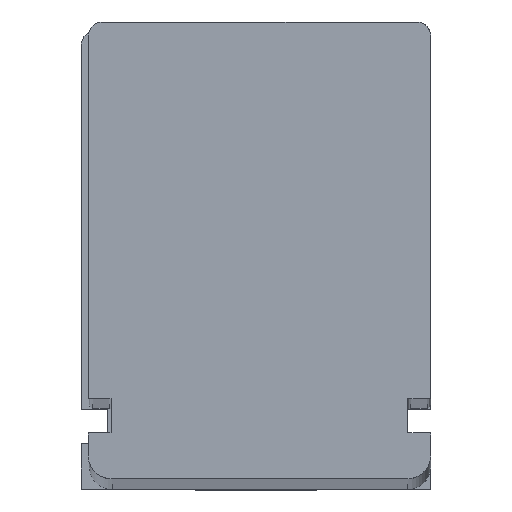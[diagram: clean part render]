
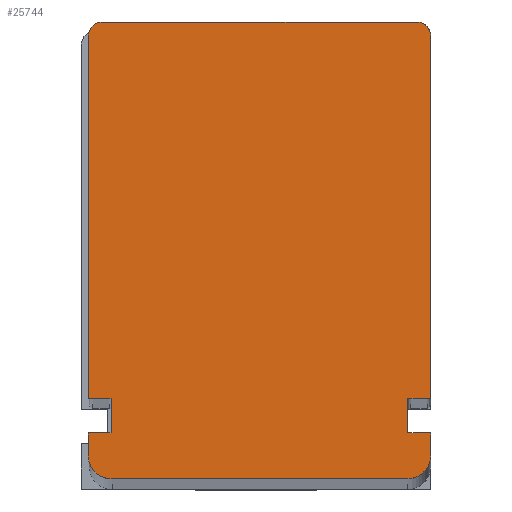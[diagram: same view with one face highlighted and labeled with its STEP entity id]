
A CAD part, top view. The second image highlights one B-rep face of the part: STEP entity #25744.
In plain terms, the highlighted planar face has unit normal (0, 0, 1).
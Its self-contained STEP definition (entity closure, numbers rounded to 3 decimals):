
#356 = CARTESIAN_POINT ( 'NONE',  ( 15., 7., 5.5 ) ) ;
#615 = VECTOR ( 'NONE', #17780, 1000. ) ;
#714 = CARTESIAN_POINT ( 'NONE',  ( -15., 4., 5.5 ) ) ;
#796 = CARTESIAN_POINT ( 'NONE',  ( -13., 4., 5.5 ) ) ;
#1031 = VERTEX_POINT ( 'NONE', #13647 ) ;
#1133 = VERTEX_POINT ( 'NONE', #22877 ) ;
#1313 = VERTEX_POINT ( 'NONE', #10103 ) ;
#1315 = CARTESIAN_POINT ( 'NONE',  ( -13., 4., 5.5 ) ) ;
#1497 = CARTESIAN_POINT ( 'NONE',  ( 13.75, 40., 5.5 ) ) ;
#1526 = VERTEX_POINT ( 'NONE', #27954 ) ;
#1612 = ORIENTED_EDGE ( 'NONE', *, *, #13354, .T. ) ;
#1744 = EDGE_CURVE ( 'NONE', #1133, #5813, #21401, .T. ) ;
#1798 = AXIS2_PLACEMENT_3D ( 'NONE', #4833, #22649, #9315 ) ;
#2169 = AXIS2_PLACEMENT_3D ( 'NONE', #19382, #6010, #21596 ) ;
#2738 = ORIENTED_EDGE ( 'NONE', *, *, #12800, .T. ) ;
#2820 = VECTOR ( 'NONE', #15998, 1000. ) ;
#2916 = LINE ( 'NONE', #24525, #25962 ) ;
#3417 = EDGE_CURVE ( 'NONE', #13939, #21290, #2916, .T. ) ;
#3596 = DIRECTION ( 'NONE',  ( 0., 1., 0. ) ) ;
#3919 = VERTEX_POINT ( 'NONE', #17221 ) ;
#4387 = CARTESIAN_POINT ( 'NONE',  ( -15., 7., 5.5 ) ) ;
#4688 = DIRECTION ( 'NONE',  ( 0., 0., 1. ) ) ;
#4833 = CARTESIAN_POINT ( 'NONE',  ( 13., 2., 5.5 ) ) ;
#5099 = EDGE_CURVE ( 'NONE', #28687, #1031, #14023, .T. ) ;
#5735 = CARTESIAN_POINT ( 'NONE',  ( 15., 2., 5.5 ) ) ;
#5813 = VERTEX_POINT ( 'NONE', #9103 ) ;
#5990 = DIRECTION ( 'NONE',  ( -1., 0., 0. ) ) ;
#6010 = DIRECTION ( 'NONE',  ( 0., 0., 1. ) ) ;
#6316 = VERTEX_POINT ( 'NONE', #8610 ) ;
#6554 = LINE ( 'NONE', #15550, #615 ) ;
#6753 = EDGE_CURVE ( 'NONE', #5813, #6316, #13291, .T. ) ;
#6832 = EDGE_CURVE ( 'NONE', #3919, #9789, #16429, .T. ) ;
#6842 = VERTEX_POINT ( 'NONE', #28967 ) ;
#7174 = EDGE_CURVE ( 'NONE', #21290, #23878, #10821, .T. ) ;
#7319 = LINE ( 'NONE', #25944, #8021 ) ;
#7360 = ORIENTED_EDGE ( 'NONE', *, *, #26855, .T. ) ;
#7431 = EDGE_CURVE ( 'NONE', #10658, #3919, #12537, .T. ) ;
#7521 = CARTESIAN_POINT ( 'NONE',  ( 13., 7., 5.5 ) ) ;
#7630 = CARTESIAN_POINT ( 'NONE',  ( -15., 7., 5.5 ) ) ;
#7697 = ORIENTED_EDGE ( 'NONE', *, *, #7431, .T. ) ;
#8021 = VECTOR ( 'NONE', #19200, 1000. ) ;
#8210 = DIRECTION ( 'NONE',  ( 0., 0., 1. ) ) ;
#8610 = CARTESIAN_POINT ( 'NONE',  ( 13., 7., 5.5 ) ) ;
#9103 = CARTESIAN_POINT ( 'NONE',  ( 13., 4., 5.5 ) ) ;
#9315 = DIRECTION ( 'NONE',  ( 1., 0., 0. ) ) ;
#9384 = CARTESIAN_POINT ( 'NONE',  ( -13., 0., 5.5 ) ) ;
#9457 = ORIENTED_EDGE ( 'NONE', *, *, #12608, .T. ) ;
#9589 = VECTOR ( 'NONE', #13574, 1000. ) ;
#9639 = VECTOR ( 'NONE', #17845, 1000. ) ;
#9722 = CARTESIAN_POINT ( 'NONE',  ( -13.75, 38.75, 5.5 ) ) ;
#9789 = VERTEX_POINT ( 'NONE', #7630 ) ;
#10103 = CARTESIAN_POINT ( 'NONE',  ( -15., 2., 5.5 ) ) ;
#10180 = ORIENTED_EDGE ( 'NONE', *, *, #7174, .T. ) ;
#10303 = EDGE_CURVE ( 'NONE', #23878, #1133, #7319, .T. ) ;
#10365 = CIRCLE ( 'NONE', #19655, 1.25 ) ;
#10658 = VERTEX_POINT ( 'NONE', #14239 ) ;
#10821 = CIRCLE ( 'NONE', #27554, 2. ) ;
#10916 = VERTEX_POINT ( 'NONE', #714 ) ;
#11330 = CARTESIAN_POINT ( 'NONE',  ( -15., 2., 5.5 ) ) ;
#11977 = DIRECTION ( 'NONE',  ( -1., 0., 0. ) ) ;
#12336 = ORIENTED_EDGE ( 'NONE', *, *, #28587, .T. ) ;
#12537 = CIRCLE ( 'NONE', #13533, 1.25 ) ;
#12569 = VECTOR ( 'NONE', #3596, 1000. ) ;
#12608 = EDGE_CURVE ( 'NONE', #6316, #28687, #19809, .T. ) ;
#12800 = EDGE_CURVE ( 'NONE', #1031, #6842, #10365, .T. ) ;
#13216 = DIRECTION ( 'NONE',  ( 1., 0., 0. ) ) ;
#13291 = LINE ( 'NONE', #25827, #12569 ) ;
#13354 = EDGE_CURVE ( 'NONE', #9789, #1526, #27464, .T. ) ;
#13389 = ORIENTED_EDGE ( 'NONE', *, *, #13659, .T. ) ;
#13533 = AXIS2_PLACEMENT_3D ( 'NONE', #9722, #25341, #11977 ) ;
#13574 = DIRECTION ( 'NONE',  ( 0., -1., 0. ) ) ;
#13647 = CARTESIAN_POINT ( 'NONE',  ( 15., 38.75, 5.5 ) ) ;
#13659 = EDGE_CURVE ( 'NONE', #6842, #10658, #16621, .T. ) ;
#13888 = VECTOR ( 'NONE', #23142, 1000. ) ;
#13939 = VERTEX_POINT ( 'NONE', #9384 ) ;
#14023 = LINE ( 'NONE', #356, #2820 ) ;
#14095 = VERTEX_POINT ( 'NONE', #796 ) ;
#14239 = CARTESIAN_POINT ( 'NONE',  ( -13.75, 40., 5.5 ) ) ;
#15550 = CARTESIAN_POINT ( 'NONE',  ( -15., 4., 5.5 ) ) ;
#15613 = CARTESIAN_POINT ( 'NONE',  ( -13., 7., 5.5 ) ) ;
#15837 = LINE ( 'NONE', #1315, #22431 ) ;
#15998 = DIRECTION ( 'NONE',  ( 0., 1., 0. ) ) ;
#16429 = LINE ( 'NONE', #4387, #27602 ) ;
#16621 = LINE ( 'NONE', #1497, #28513 ) ;
#16657 = ORIENTED_EDGE ( 'NONE', *, *, #20203, .T. ) ;
#16962 = DIRECTION ( 'NONE',  ( 0., -1., 0. ) ) ;
#17221 = CARTESIAN_POINT ( 'NONE',  ( -15., 38.75, 5.5 ) ) ;
#17780 = DIRECTION ( 'NONE',  ( -1., 0., 0. ) ) ;
#17845 = DIRECTION ( 'NONE',  ( 1., 0., 0. ) ) ;
#18056 = CARTESIAN_POINT ( 'NONE',  ( 13., 2., 5.5 ) ) ;
#18205 = PLANE ( 'NONE',  #1798 ) ;
#18292 = CARTESIAN_POINT ( 'NONE',  ( 15., 4., 5.5 ) ) ;
#18669 = ORIENTED_EDGE ( 'NONE', *, *, #1744, .T. ) ;
#18777 = CIRCLE ( 'NONE', #2169, 2. ) ;
#19200 = DIRECTION ( 'NONE',  ( 0., 1., 0. ) ) ;
#19382 = CARTESIAN_POINT ( 'NONE',  ( -13., 2., 5.5 ) ) ;
#19655 = AXIS2_PLACEMENT_3D ( 'NONE', #21543, #8210, #23827 ) ;
#19809 = LINE ( 'NONE', #7521, #13888 ) ;
#20137 = ORIENTED_EDGE ( 'NONE', *, *, #10303, .T. ) ;
#20203 = EDGE_CURVE ( 'NONE', #1313, #13939, #18777, .T. ) ;
#20260 = DIRECTION ( 'NONE',  ( 1., 0., 0. ) ) ;
#20402 = FACE_OUTER_BOUND ( 'NONE', #23213, .T. ) ;
#20718 = VECTOR ( 'NONE', #27261, 1000. ) ;
#20972 = ORIENTED_EDGE ( 'NONE', *, *, #3417, .T. ) ;
#21247 = ORIENTED_EDGE ( 'NONE', *, *, #6832, .T. ) ;
#21290 = VERTEX_POINT ( 'NONE', #26350 ) ;
#21401 = LINE ( 'NONE', #18292, #20718 ) ;
#21543 = CARTESIAN_POINT ( 'NONE',  ( 13.75, 38.75, 5.5 ) ) ;
#21596 = DIRECTION ( 'NONE',  ( -1., 0., 0. ) ) ;
#22193 = DIRECTION ( 'NONE',  ( 0., -1., 0. ) ) ;
#22431 = VECTOR ( 'NONE', #16962, 1000. ) ;
#22468 = ORIENTED_EDGE ( 'NONE', *, *, #6753, .T. ) ;
#22649 = DIRECTION ( 'NONE',  ( 0., 0., 1. ) ) ;
#22877 = CARTESIAN_POINT ( 'NONE',  ( 15., 4., 5.5 ) ) ;
#23142 = DIRECTION ( 'NONE',  ( 1., 0., 0. ) ) ;
#23213 = EDGE_LOOP ( 'NONE', ( #10180, #20137, #18669, #22468, #9457, #28923, #2738, #13389, #7697, #21247, #1612, #12336, #25205, #7360, #16657, #20972 ) ) ;
#23625 = EDGE_CURVE ( 'NONE', #14095, #10916, #6554, .T. ) ;
#23827 = DIRECTION ( 'NONE',  ( 1., 0., 0. ) ) ;
#23878 = VERTEX_POINT ( 'NONE', #5735 ) ;
#24525 = CARTESIAN_POINT ( 'NONE',  ( -13., 0., 5.5 ) ) ;
#25205 = ORIENTED_EDGE ( 'NONE', *, *, #23625, .T. ) ;
#25341 = DIRECTION ( 'NONE',  ( 0., 0., 1. ) ) ;
#25744 = ADVANCED_FACE ( 'NONE', ( #20402 ), #18205, .T. ) ;
#25827 = CARTESIAN_POINT ( 'NONE',  ( 13., 4., 5.5 ) ) ;
#25944 = CARTESIAN_POINT ( 'NONE',  ( 15., 2., 5.5 ) ) ;
#25962 = VECTOR ( 'NONE', #13216, 1000. ) ;
#26350 = CARTESIAN_POINT ( 'NONE',  ( 13., 0., 5.5 ) ) ;
#26855 = EDGE_CURVE ( 'NONE', #10916, #1313, #27420, .T. ) ;
#27261 = DIRECTION ( 'NONE',  ( -1., 0., 0. ) ) ;
#27420 = LINE ( 'NONE', #11330, #9589 ) ;
#27464 = LINE ( 'NONE', #15613, #9639 ) ;
#27554 = AXIS2_PLACEMENT_3D ( 'NONE', #18056, #4688, #20260 ) ;
#27602 = VECTOR ( 'NONE', #22193, 1000. ) ;
#27954 = CARTESIAN_POINT ( 'NONE',  ( -13., 7., 5.5 ) ) ;
#28513 = VECTOR ( 'NONE', #5990, 1000. ) ;
#28574 = CARTESIAN_POINT ( 'NONE',  ( 15., 7., 5.5 ) ) ;
#28587 = EDGE_CURVE ( 'NONE', #1526, #14095, #15837, .T. ) ;
#28687 = VERTEX_POINT ( 'NONE', #28574 ) ;
#28923 = ORIENTED_EDGE ( 'NONE', *, *, #5099, .T. ) ;
#28967 = CARTESIAN_POINT ( 'NONE',  ( 13.75, 40., 5.5 ) ) ;
